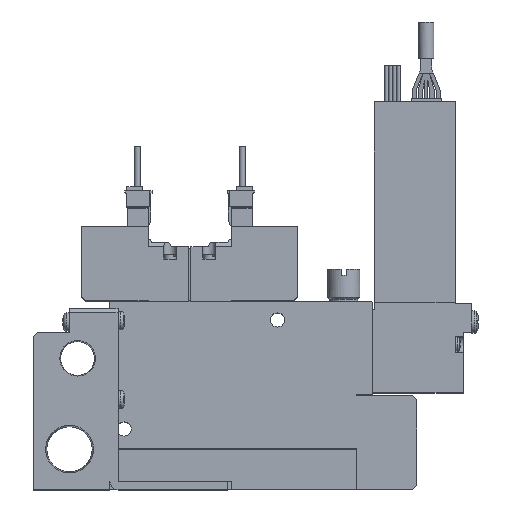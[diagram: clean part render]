
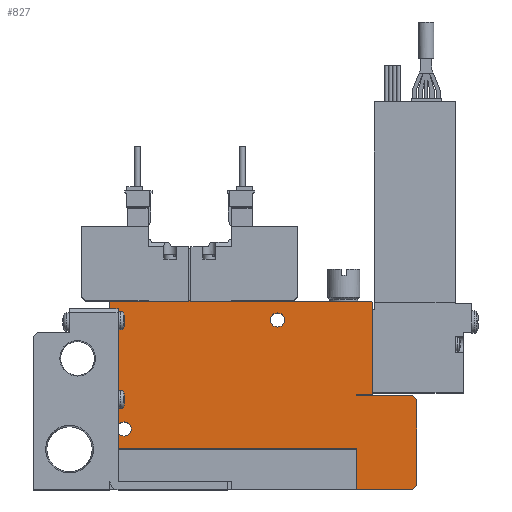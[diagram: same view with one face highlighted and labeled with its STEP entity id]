
A CAD part, top view. The second image highlights one B-rep face of the part: STEP entity #827.
In plain terms, the highlighted planar face has unit normal (0, 0, 1).
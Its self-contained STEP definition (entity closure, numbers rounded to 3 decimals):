
#827=ADVANCED_FACE('',(#1908,#1909,#1910),#1911,.F.);
#1908=FACE_OUTER_BOUND('',#3454,.T.);
#1909=FACE_BOUND('',#3455,.T.);
#1910=FACE_BOUND('',#3456,.T.);
#1911=PLANE('',#3457);
#3454=EDGE_LOOP('',(#7108,#7109,#7110,#7111,#7112,#7113,#7114,#7115,#7116,#7117,#7118,#7119,#7120,#7121));
#3455=EDGE_LOOP('',(#7122));
#3456=EDGE_LOOP('',(#7123));
#3457=AXIS2_PLACEMENT_3D('',#7124,#7125,#7126);
#7108=ORIENTED_EDGE('',*,*,#10224,.T.);
#7109=ORIENTED_EDGE('',*,*,#10225,.F.);
#7110=ORIENTED_EDGE('',*,*,#10226,.F.);
#7111=ORIENTED_EDGE('',*,*,#10219,.T.);
#7112=ORIENTED_EDGE('',*,*,#10227,.T.);
#7113=ORIENTED_EDGE('',*,*,#10228,.T.);
#7114=ORIENTED_EDGE('',*,*,#10229,.T.);
#7115=ORIENTED_EDGE('',*,*,#10230,.T.);
#7116=ORIENTED_EDGE('',*,*,#10231,.T.);
#7117=ORIENTED_EDGE('',*,*,#10232,.T.);
#7118=ORIENTED_EDGE('',*,*,#10233,.T.);
#7119=ORIENTED_EDGE('',*,*,#10234,.T.);
#7120=ORIENTED_EDGE('',*,*,#10222,.T.);
#7121=ORIENTED_EDGE('',*,*,#10235,.T.);
#7122=ORIENTED_EDGE('',*,*,#10236,.F.);
#7123=ORIENTED_EDGE('',*,*,#10214,.F.);
#7124=CARTESIAN_POINT('',(0.0,0.0,5.0));
#7125=DIRECTION('',(0.0,0.0,-1.0));
#7126=DIRECTION('',(0.0,-1.0,0.0));
#10214=EDGE_CURVE('',#12403,#12403,#12404,.T.);
#10219=EDGE_CURVE('',#12407,#12411,#12413,.T.);
#10222=EDGE_CURVE('',#12419,#12417,#12420,.T.);
#10224=EDGE_CURVE('',#12422,#12423,#12424,.T.);
#10225=EDGE_CURVE('',#12425,#12423,#12426,.T.);
#10226=EDGE_CURVE('',#12407,#12425,#12427,.T.);
#10227=EDGE_CURVE('',#12411,#12428,#12429,.T.);
#10228=EDGE_CURVE('',#12428,#12430,#12431,.T.);
#10229=EDGE_CURVE('',#12430,#12432,#12433,.T.);
#10230=EDGE_CURVE('',#12432,#12434,#12435,.T.);
#10231=EDGE_CURVE('',#12434,#12436,#12437,.T.);
#10232=EDGE_CURVE('',#12436,#12438,#12439,.T.);
#10233=EDGE_CURVE('',#12438,#12440,#12441,.T.);
#10234=EDGE_CURVE('',#12440,#12419,#12442,.T.);
#10235=EDGE_CURVE('',#12417,#12422,#12443,.T.);
#10236=EDGE_CURVE('',#12444,#12444,#12445,.T.);
#12403=VERTEX_POINT('',#15967);
#12404=CIRCLE('',#15968,1.75);
#12407=VERTEX_POINT('',#15972);
#12411=VERTEX_POINT('',#15978);
#12413=LINE('',#15981,#15982);
#12417=VERTEX_POINT('',#15987);
#12419=VERTEX_POINT('',#15990);
#12420=LINE('',#15991,#15992);
#12422=VERTEX_POINT('',#15995);
#12423=VERTEX_POINT('',#15996);
#12424=LINE('',#15997,#15998);
#12425=VERTEX_POINT('',#15999);
#12426=LINE('',#16000,#16001);
#12427=LINE('',#16002,#16003);
#12428=VERTEX_POINT('',#16004);
#12429=LINE('',#16005,#16006);
#12430=VERTEX_POINT('',#16007);
#12431=LINE('',#16008,#16009);
#12432=VERTEX_POINT('',#16010);
#12433=LINE('',#16011,#16012);
#12434=VERTEX_POINT('',#16013);
#12435=LINE('',#16014,#16015);
#12436=VERTEX_POINT('',#16016);
#12437=LINE('',#16017,#16018);
#12438=VERTEX_POINT('',#16019);
#12439=LINE('',#16020,#16021);
#12440=VERTEX_POINT('',#16022);
#12441=LINE('',#16023,#16024);
#12442=LINE('',#16025,#16026);
#12443=LINE('',#16027,#16028);
#12444=VERTEX_POINT('',#16029);
#12445=CIRCLE('',#16030,1.75);
#15967=CARTESIAN_POINT('',(43.25,42.0,5.0));
#15968=AXIS2_PLACEMENT_3D('',#19726,#19727,#19728);
#15972=CARTESIAN_POINT('',(61.1,0.0,5.0));
#15978=CARTESIAN_POINT('',(75.0,0.0,5.0));
#15981=CARTESIAN_POINT('',(0.0,0.0,5.0));
#15982=VECTOR('',#19733,1.0);
#15987=CARTESIAN_POINT('',(0.2,46.6,5.0));
#15990=CARTESIAN_POINT('',(64.8,46.6,5.0));
#15991=CARTESIAN_POINT('',(64.8,46.6,5.0));
#15992=VECTOR('',#19736,1.0);
#15995=CARTESIAN_POINT('',(0.0,46.4,5.0));
#15996=CARTESIAN_POINT('',(0.0,10.1,5.0));
#15997=CARTESIAN_POINT('',(0.0,46.4,5.0));
#15998=VECTOR('',#19738,1.0);
#15999=CARTESIAN_POINT('',(61.1,10.1,5.0));
#16000=CARTESIAN_POINT('',(61.1,10.1,5.0));
#16001=VECTOR('',#19739,1.0);
#16002=CARTESIAN_POINT('',(61.1,0.0,5.0));
#16003=VECTOR('',#19740,1.0);
#16004=CARTESIAN_POINT('',(76.0,1.0,5.0));
#16005=CARTESIAN_POINT('',(75.0,0.0,5.0));
#16006=VECTOR('',#19741,1.0);
#16007=CARTESIAN_POINT('',(76.0,22.25,5.0));
#16008=CARTESIAN_POINT('',(76.0,1.0,5.0));
#16009=VECTOR('',#19742,1.0);
#16010=CARTESIAN_POINT('',(75.0,23.25,5.0));
#16011=CARTESIAN_POINT('',(76.0,22.25,5.0));
#16012=VECTOR('',#19743,1.0);
#16013=CARTESIAN_POINT('',(61.0,23.25,5.0));
#16014=CARTESIAN_POINT('',(75.0,23.25,5.0));
#16015=VECTOR('',#19744,1.0);
#16016=CARTESIAN_POINT('',(61.0,23.5,5.0));
#16017=CARTESIAN_POINT('',(61.0,23.25,5.0));
#16018=VECTOR('',#19745,1.0);
#16019=CARTESIAN_POINT('',(65.0,23.5,5.0));
#16020=CARTESIAN_POINT('',(61.0,23.5,5.0));
#16021=VECTOR('',#19746,1.0);
#16022=CARTESIAN_POINT('',(65.0,46.4,5.0));
#16023=CARTESIAN_POINT('',(65.0,23.5,5.0));
#16024=VECTOR('',#19747,1.0);
#16025=CARTESIAN_POINT('',(65.0,46.4,5.0));
#16026=VECTOR('',#19748,1.0);
#16027=CARTESIAN_POINT('',(0.2,46.6,5.0));
#16028=VECTOR('',#19749,1.0);
#16029=CARTESIAN_POINT('',(5.25,15.0,5.0));
#16030=AXIS2_PLACEMENT_3D('',#19750,#19751,#19752);
#19726=CARTESIAN_POINT('',(41.5,42.0,5.0));
#19727=DIRECTION('',(0.0,0.0,1.0));
#19728=DIRECTION('',(1.0,0.0,0.0));
#19733=DIRECTION('',(1.0,0.0,0.0));
#19736=DIRECTION('',(-1.0,0.0,0.0));
#19738=DIRECTION('',(0.0,-1.0,0.0));
#19739=DIRECTION('',(-1.0,0.0,0.0));
#19740=DIRECTION('',(0.0,1.0,0.0));
#19741=DIRECTION('',(0.707,0.707,0.0));
#19742=DIRECTION('',(0.0,1.0,0.0));
#19743=DIRECTION('',(-0.707,0.707,0.0));
#19744=DIRECTION('',(-1.0,0.0,0.0));
#19745=DIRECTION('',(0.0,1.0,0.0));
#19746=DIRECTION('',(1.0,0.,0.0));
#19747=DIRECTION('',(0.0,1.0,0.0));
#19748=DIRECTION('',(-0.707,0.707,0.0));
#19749=DIRECTION('',(-0.707,-0.707,0.0));
#19750=CARTESIAN_POINT('',(3.5,15.0,5.0));
#19751=DIRECTION('',(0.0,0.0,1.0));
#19752=DIRECTION('',(1.0,0.0,0.0));
